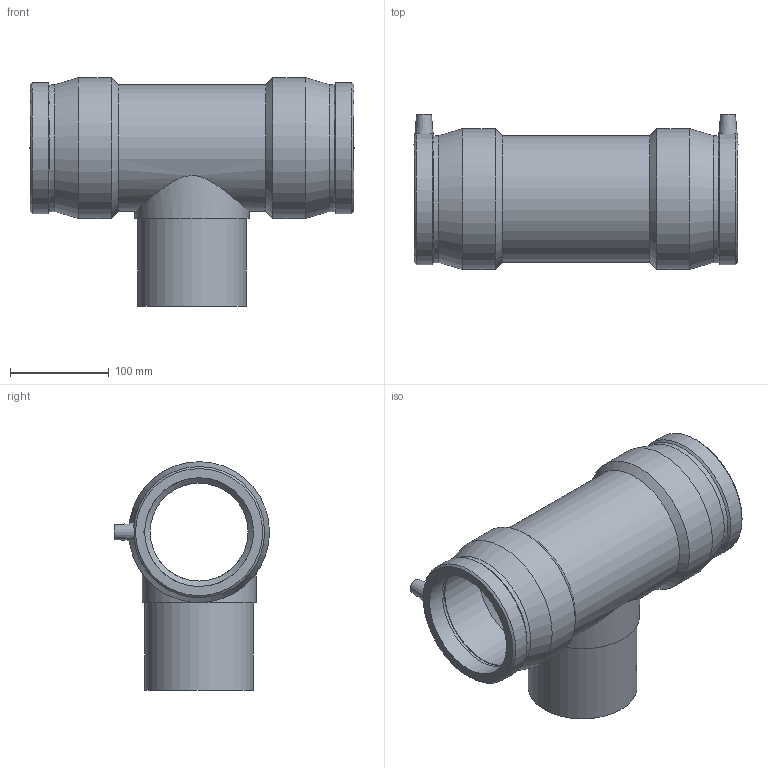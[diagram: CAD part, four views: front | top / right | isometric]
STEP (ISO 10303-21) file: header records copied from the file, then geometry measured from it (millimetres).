
FILE_DESCRIPTION(/* description */ ('PLASSON TEE 4''''IPS'),/* implementation_level */ '2;1');
FILE_NAME(/* name */ 'C:\Dropbox\KIMPROJECTS-Inventor 2019\99-16-3568-Processing Inch\ASTM ElectroFusion 2021\5904B\5904B003040.ipt.stp',/* time_stamp */ '2021-08-30T09:49:40+03:00',/* author */ ('KIM'),/* organization */ (''),/* preprocessor_version */ 'ST-DEVELOPER v17.2',/* originating_system */ 'Autodesk Inventor 2019',/* authorisation */ '');
FILE_SCHEMA (('AUTOMOTIVE_DESIGN { 1 0 10303 214 3 1 1 }'));
Length unit declared in the file: inch
Products named in the file (1): 5904B003040
Bounding box: 327.83 x 156.84 x 231.27 mm (x, y, z)
Volume: 2071761.8 mm3; surface area: 318928.1 mm2
Topology: 1 solids, 1 shells, 49 faces, 124 edges, 85 vertices
Faces by surface type: cylinder 19, cone 18, plane 12
Full cylindrical faces by diameter (mm): 4 x2, 10 x2, 88 x1, 99 x1, 110 x5, 115.5 x1, 128.245 x1, 128.544 x2, 142.494 x2
Entity records: 1804 total; most frequent: CARTESIAN_POINT 533, DIRECTION 273, ORIENTED_EDGE 248, EDGE_CURVE 124, AXIS2_PLACEMENT_3D 121, VERTEX_POINT 85, CIRCLE 71, EDGE_LOOP 61
